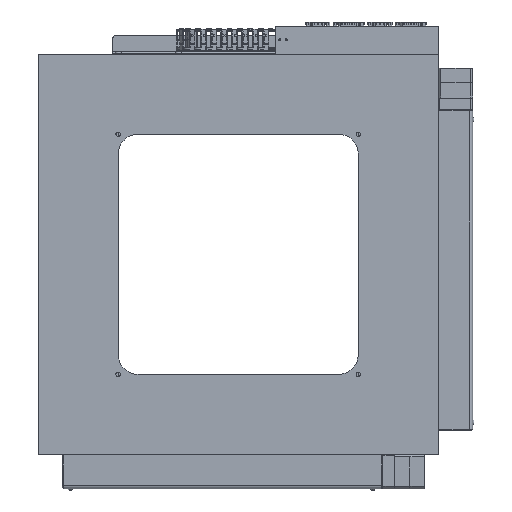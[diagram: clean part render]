
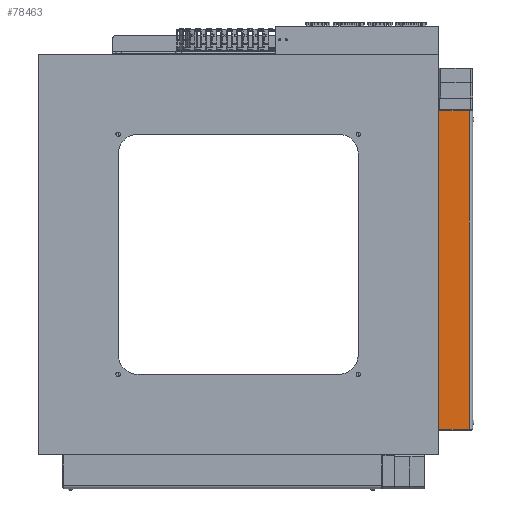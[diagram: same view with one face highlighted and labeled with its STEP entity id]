
A CAD part, front view. The second image highlights one B-rep face of the part: STEP entity #78463.
In plain terms, the highlighted planar face has unit normal (0, -1, 0).
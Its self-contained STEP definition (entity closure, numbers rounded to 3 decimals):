
#79 = DIRECTION ( 'NONE',  ( 0., 0., -1. ) ) ;
#1716 = ORIENTED_EDGE ( 'NONE', *, *, #73979, .F. ) ;
#5819 = CARTESIAN_POINT ( 'NONE',  ( 250.5, 0.9, 179.25 ) ) ;
#18495 = CARTESIAN_POINT ( 'NONE',  ( 288.85, 0.9, -218.75 ) ) ;
#18810 = VECTOR ( 'NONE', #79, 1000. ) ;
#21507 = CARTESIAN_POINT ( 'NONE',  ( 288.85, 0.9, -218.75 ) ) ;
#30197 = VECTOR ( 'NONE', #68476, 1000. ) ;
#30694 = DIRECTION ( 'NONE',  ( -1., 0., 0. ) ) ;
#31368 = EDGE_CURVE ( 'NONE', #49665, #34430, #73285, .T. ) ;
#31618 = CARTESIAN_POINT ( 'NONE',  ( 288.85, 0.9, 179.25 ) ) ;
#31761 = EDGE_CURVE ( 'NONE', #58691, #35763, #76010, .T. ) ;
#34430 = VERTEX_POINT ( 'NONE', #63375 ) ;
#35763 = VERTEX_POINT ( 'NONE', #69504 ) ;
#36157 = VECTOR ( 'NONE', #30694, 1000. ) ;
#37384 = PLANE ( 'NONE',  #80348 ) ;
#38013 = LINE ( 'NONE', #77662, #43859 ) ;
#43859 = VECTOR ( 'NONE', #46360, 1000. ) ;
#46360 = DIRECTION ( 'NONE',  ( 0., 0., -1. ) ) ;
#48516 = ORIENTED_EDGE ( 'NONE', *, *, #50229, .T. ) ;
#49665 = VERTEX_POINT ( 'NONE', #21507 ) ;
#49687 = DIRECTION ( 'NONE',  ( 0., -1., 0. ) ) ;
#50229 = EDGE_CURVE ( 'NONE', #35763, #34430, #64612, .T. ) ;
#58691 = VERTEX_POINT ( 'NONE', #74213 ) ;
#61004 = FACE_OUTER_BOUND ( 'NONE', #75550, .T. ) ;
#63375 = CARTESIAN_POINT ( 'NONE',  ( 250.5, 0.9, -218.75 ) ) ;
#64612 = LINE ( 'NONE', #5819, #18810 ) ;
#65809 = ORIENTED_EDGE ( 'NONE', *, *, #31761, .T. ) ;
#68476 = DIRECTION ( 'NONE',  ( -1., 0., 0. ) ) ;
#69504 = CARTESIAN_POINT ( 'NONE',  ( 250.5, 0.9, 179.25 ) ) ;
#73285 = LINE ( 'NONE', #18495, #36157 ) ;
#73979 = EDGE_CURVE ( 'NONE', #58691, #49665, #38013, .T. ) ;
#74213 = CARTESIAN_POINT ( 'NONE',  ( 288.85, 0.9, 179.25 ) ) ;
#75550 = EDGE_LOOP ( 'NONE', ( #80480, #1716, #65809, #48516 ) ) ;
#76010 = LINE ( 'NONE', #31618, #30197 ) ;
#76554 = DIRECTION ( 'NONE',  ( 1., 0., 0. ) ) ;
#77662 = CARTESIAN_POINT ( 'NONE',  ( 288.85, 0.9, 179.25 ) ) ;
#78463 = ADVANCED_FACE ( 'NONE', ( #61004 ), #37384, .T. ) ;
#80348 = AXIS2_PLACEMENT_3D ( 'NONE', #80700, #49687, #76554 ) ;
#80480 = ORIENTED_EDGE ( 'NONE', *, *, #31368, .F. ) ;
#80700 = CARTESIAN_POINT ( 'NONE',  ( 288.85, 0.9, 179.25 ) ) ;
